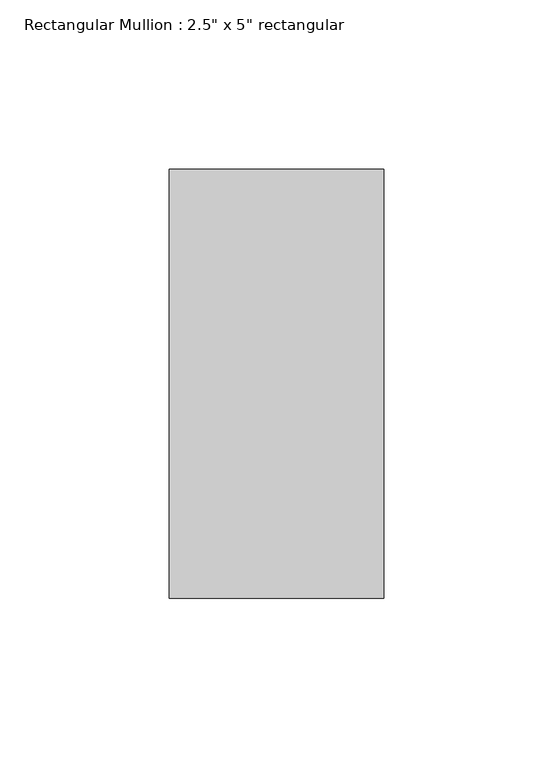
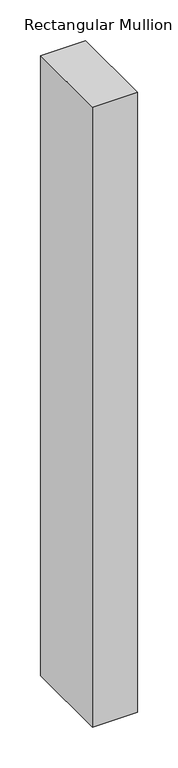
"""IFC4 building model written with IfcOpenShell, lengths in millimetres: member geometry."""

from ifc_helpers import new_model, si_unit, frame, origin, place, context, project, spatial, polyline, outline, extrude, source, transform, mapped, element, save


def member_2928588c(model_context):
    return source(origin(), model_context, "Body", "SweptSolid", [
        extrude(outline(polyline([(31.75, 63.5), (31.75, -63.5), (-31.75, -63.5), (-31.75, 63.5), (31.75, 63.5)])), frame((0.0, 0.0, -927.1), z_axis=(0.0, 0.0, 1.0), x_axis=(1.0, 0.0, 0.0)), (0.0, 0.0, 1.0), 927.1),
    ])


if __name__ == "__main__":
    model = new_model("IFC4")
    model_context = context("Model", 3, world=origin())
    ifc_project = project(units=[si_unit("LENGTHUNIT", "METRE", prefix="MILLI")], contexts=[model_context])
    site = spatial("IfcSite", under=ifc_project)
    building = spatial("IfcBuilding", under=site)
    placement = place(None, origin())
    member_shape = member_2928588c(model_context)
    element("IfcMember", 1, ObjectType="Rectangular Mullion : 2.5\" x 5\" rectangular", at=placement, inside=building, context=model_context, shape_type="MappedRepresentation", body=[
        mapped(member_shape, transform((0.0, 0.0, 0.0), x_axis=(1.0, 0.0, 0.0), y_axis=(0.0, 1.0, 0.0), z_axis=(0.0, 0.0, 1.0))),
    ])
    save(model, "model.ifc")
